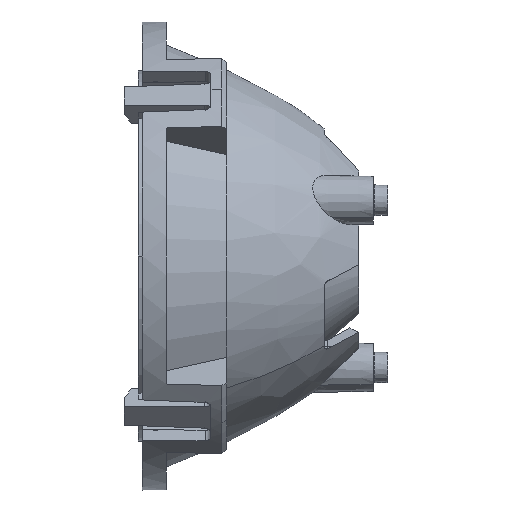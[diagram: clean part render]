
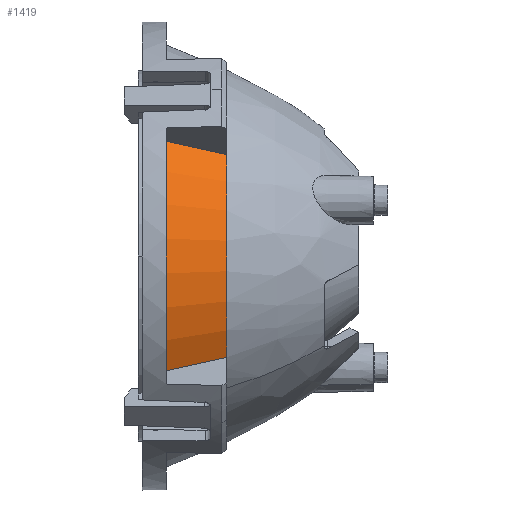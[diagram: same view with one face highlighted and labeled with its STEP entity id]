
A CAD part, left-side view. The second image highlights one B-rep face of the part: STEP entity #1419.
In plain terms, the highlighted conical face has half-angle 22.414 degrees and reference radius 17.605 mm.
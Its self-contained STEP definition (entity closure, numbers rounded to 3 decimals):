
#144 = FACE_OUTER_BOUND ( 'NONE', #4272, .T. ) ;
#350 = CARTESIAN_POINT ( 'NONE',  ( 17.21, -1., 3.707 ) ) ;
#838 = CARTESIAN_POINT ( 'NONE',  ( 17.21, -1., 3.707 ) ) ;
#1153 = CIRCLE ( 'NONE', #6336, 15.542 ) ;
#1419 = ADVANCED_FACE ( 'NONE', ( #144 ), #3739, .T. ) ;
#1422 = CARTESIAN_POINT ( 'NONE',  ( 3.264, -6., 15.196 ) ) ;
#1539 = DIRECTION ( 'NONE',  ( -1., 0., 0. ) ) ;
#1540 = EDGE_CURVE ( 'NONE', #8704, #8940, #10534, .T. ) ;
#2425 = CARTESIAN_POINT ( 'NONE',  ( 0., -6., 0. ) ) ;
#2582 = CARTESIAN_POINT ( 'NONE',  ( 15.196, -6., 3.264 ) ) ;
#2820 = CARTESIAN_POINT ( 'NONE',  ( 3.264, -6., 15.196 ) ) ;
#3107 = VERTEX_POINT ( 'NONE', #1422 ) ;
#3367 = DIRECTION ( 'NONE',  ( 0., 0., 1. ) ) ;
#3585 = EDGE_CURVE ( 'NONE', #10429, #3107, #1153, .T. ) ;
#3739 = CONICAL_SURFACE ( 'NONE', #8811, 17.605, 0.391 ) ;
#3885 = CARTESIAN_POINT ( 'NONE',  ( 15.867, -4.333, 3.412 ) ) ;
#3958 = CARTESIAN_POINT ( 'NONE',  ( 0., -1., 0. ) ) ;
#3968 = VECTOR ( 'NONE', #8949, 1000. ) ;
#4272 = EDGE_LOOP ( 'NONE', ( #10137, #10195, #10213, #10310 ) ) ;
#4681 = CARTESIAN_POINT ( 'NONE',  ( 3.707, -1., 17.21 ) ) ;
#5562 = DIRECTION ( 'NONE',  ( -1., 0., 0. ) ) ;
#5637 = CARTESIAN_POINT ( 'NONE',  ( 15.196, -6., 3.264 ) ) ;
#6033 = B_SPLINE_CURVE_WITH_KNOTS ( 'NONE', 3,
 ( #5637, #3885, #7238, #350 ),
 .UNSPECIFIED., .F., .F.,
 ( 4, 4 ),
 ( 0., 0.005 ),
 .UNSPECIFIED. ) ;
#6221 = CARTESIAN_POINT ( 'NONE',  ( 0., -1., 0. ) ) ;
#6336 = AXIS2_PLACEMENT_3D ( 'NONE', #2425, #8625, #3367 ) ;
#6856 = DIRECTION ( 'NONE',  ( 0., -1., 0. ) ) ;
#7122 = EDGE_CURVE ( 'NONE', #10429, #8704, #6033, .T. ) ;
#7238 = CARTESIAN_POINT ( 'NONE',  ( 16.538, -2.667, 3.559 ) ) ;
#8436 = EDGE_CURVE ( 'NONE', #3107, #8940, #10483, .T. ) ;
#8625 = DIRECTION ( 'NONE',  ( 0., -1., 0. ) ) ;
#8668 = AXIS2_PLACEMENT_3D ( 'NONE', #6221, #6856, #1539 ) ;
#8704 = VERTEX_POINT ( 'NONE', #838 ) ;
#8811 = AXIS2_PLACEMENT_3D ( 'NONE', #3958, #10066, #5562 ) ;
#8940 = VERTEX_POINT ( 'NONE', #4681 ) ;
#8949 = DIRECTION ( 'NONE',  ( 0.082, 0.924, 0.372 ) ) ;
#10066 = DIRECTION ( 'NONE',  ( 0., 1., 0. ) ) ;
#10137 = ORIENTED_EDGE ( 'NONE', *, *, #3585, .F. ) ;
#10195 = ORIENTED_EDGE ( 'NONE', *, *, #7122, .T. ) ;
#10213 = ORIENTED_EDGE ( 'NONE', *, *, #1540, .T. ) ;
#10310 = ORIENTED_EDGE ( 'NONE', *, *, #8436, .F. ) ;
#10429 = VERTEX_POINT ( 'NONE', #2582 ) ;
#10483 = LINE ( 'NONE', #2820, #3968 ) ;
#10534 = CIRCLE ( 'NONE', #8668, 17.605 ) ;
